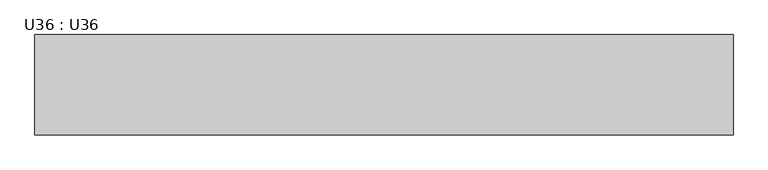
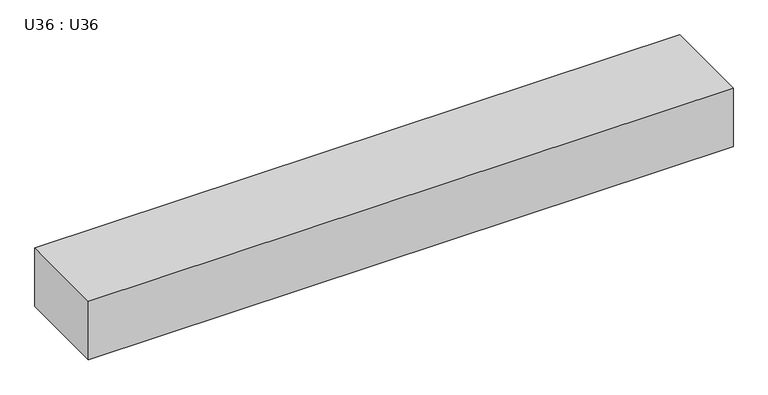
"""IFC4 building model written with IfcOpenShell, lengths in millimetres: beam geometry, U36 : U36."""

from ifc_helpers import new_model, si_unit, frame, origin, place, context, project, spatial, polyline, outline, extrude, source, transform, mapped, element, save


def u36_u36_31054c21(model_context):
    return source(origin(), model_context, "Body", "SweptSolid", [
        extrude(outline(polyline([(-1250.0, -180.0), (-1250.0, 180.0), (1250.0, 180.0), (1250.0, -180.0), (-1250.0, -180.0)])), frame((0.0, 0.0, -120.0), z_axis=(0.0, 0.0, 1.0), x_axis=(1.0, 0.0, 0.0)), (0.0, 0.0, 1.0), 240.0),
    ])


if __name__ == "__main__":
    model = new_model("IFC4")
    model_context = context("Model", 3, world=origin())
    ifc_project = project(units=[si_unit("LENGTHUNIT", "METRE", prefix="MILLI")], contexts=[model_context])
    site = spatial("IfcSite", under=ifc_project)
    building = spatial("IfcBuilding", under=site)
    placement = place(None, origin())
    u36_u36_shape = u36_u36_31054c21(model_context)
    element("IfcBeam", 1, ObjectType="U36 : U36", at=placement, inside=building, context=model_context, shape_type="MappedRepresentation", body=[
        mapped(u36_u36_shape, transform((0.0, 0.0, 0.0), x_axis=(1.0, 0.0, 0.0), y_axis=(0.0, 1.0, 0.0), z_axis=(0.0, 0.0, 1.0))),
    ])
    save(model, "model.ifc")
